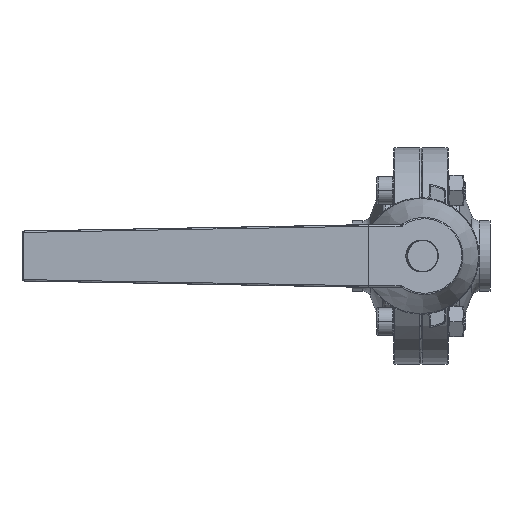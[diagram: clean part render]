
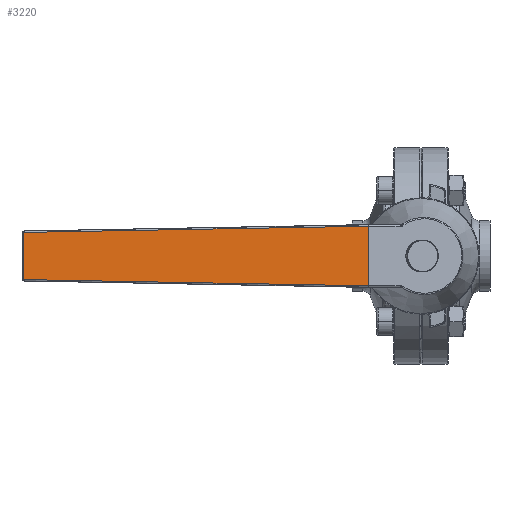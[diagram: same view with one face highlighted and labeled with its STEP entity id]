
A CAD part, left-side view. The second image highlights one B-rep face of the part: STEP entity #3220.
In plain terms, the highlighted planar face has unit normal (-0.996, -0.092, 0) as drawn and (-0.092, 0, -0.996) by its records, which use the part's own axes.
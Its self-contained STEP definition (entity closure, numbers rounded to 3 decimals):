
#1294 = ORIENTED_EDGE ( 'NONE', *, *, #75362, .T. ) ;
#1420 = ORIENTED_EDGE ( 'NONE', *, *, #68697, .T. ) ;
#2939 = EDGE_CURVE ( 'NONE', #37805, #83996, #110686, .T. ) ;
#3220 = ADVANCED_FACE ( 'NONE', ( #61472 ), #5289, .F. ) ;
#3308 = VERTEX_POINT ( 'NONE', #58199 ) ;
#4873 = LINE ( 'NONE', #52449, #64878 ) ;
#5289 = PLANE ( 'NONE',  #15761 ) ;
#6382 = DIRECTION ( 'NONE',  ( 0.092, 0., 0.996 ) ) ;
#10109 = DIRECTION ( 'NONE',  ( 0.996, -0.018, -0.092 ) ) ;
#15139 = LINE ( 'NONE', #50733, #79179 ) ;
#15761 = AXIS2_PLACEMENT_3D ( 'NONE', #57467, #6382, #66946 ) ;
#25339 = ORIENTED_EDGE ( 'NONE', *, *, #43636, .T. ) ;
#32862 = DIRECTION ( 'NONE',  ( -0.996, -0.018, 0.092 ) ) ;
#37089 = CARTESIAN_POINT ( 'NONE',  ( 143.454, -8.51, -49.95 ) ) ;
#37805 = VERTEX_POINT ( 'NONE', #102409 ) ;
#43636 = EDGE_CURVE ( 'NONE', #110379, #37805, #4873, .T. ) ;
#49945 = CARTESIAN_POINT ( 'NONE',  ( 143.454, -11.25, -49.95 ) ) ;
#50117 = ORIENTED_EDGE ( 'NONE', *, *, #2939, .T. ) ;
#50733 = CARTESIAN_POINT ( 'NONE',  ( 18.943, -10.751, -38.499 ) ) ;
#51862 = CARTESIAN_POINT ( 'NONE',  ( 18.99, -11.25, -38.504 ) ) ;
#52449 = CARTESIAN_POINT ( 'NONE',  ( -2.952, 11.145, -36.486 ) ) ;
#57467 = CARTESIAN_POINT ( 'NONE',  ( -3.352, -11.25, -36.449 ) ) ;
#58199 = CARTESIAN_POINT ( 'NONE',  ( 18.99, -10.75, -38.504 ) ) ;
#61472 = FACE_OUTER_BOUND ( 'NONE', #69645, .T. ) ;
#62790 = LINE ( 'NONE', #51862, #70924 ) ;
#64878 = VECTOR ( 'NONE', #10109, 1000. ) ;
#66946 = DIRECTION ( 'NONE',  ( 0.996, 0., -0.092 ) ) ;
#68697 = EDGE_CURVE ( 'NONE', #83996, #3308, #15139, .T. ) ;
#69296 = DIRECTION ( 'NONE',  ( 0., -1., 0. ) ) ;
#69645 = EDGE_LOOP ( 'NONE', ( #50117, #1420, #1294, #25339 ) ) ;
#70924 = VECTOR ( 'NONE', #85034, 1000. ) ;
#75362 = EDGE_CURVE ( 'NONE', #3308, #110379, #62790, .T. ) ;
#79179 = VECTOR ( 'NONE', #32862, 1000. ) ;
#83996 = VERTEX_POINT ( 'NONE', #37089 ) ;
#85034 = DIRECTION ( 'NONE',  ( 0., 1., 0. ) ) ;
#87505 = VECTOR ( 'NONE', #69296, 1000. ) ;
#102409 = CARTESIAN_POINT ( 'NONE',  ( 143.454, 8.51, -49.95 ) ) ;
#102520 = CARTESIAN_POINT ( 'NONE',  ( 18.99, 10.75, -38.504 ) ) ;
#110379 = VERTEX_POINT ( 'NONE', #102520 ) ;
#110686 = LINE ( 'NONE', #49945, #87505 ) ;
